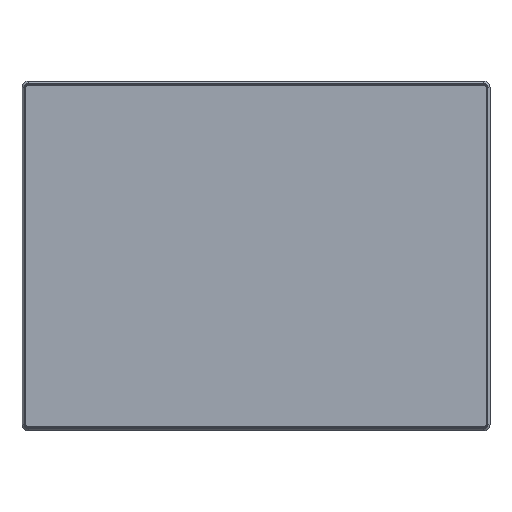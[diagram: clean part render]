
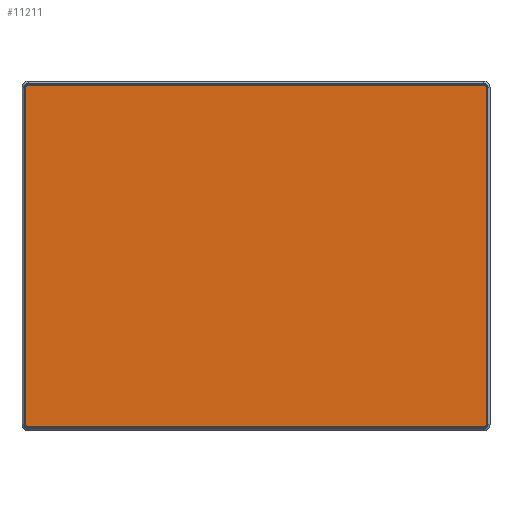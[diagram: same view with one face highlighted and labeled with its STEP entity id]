
A CAD part, top view. The second image highlights one B-rep face of the part: STEP entity #11211.
In plain terms, the highlighted planar face has unit normal (0, 0, 1).
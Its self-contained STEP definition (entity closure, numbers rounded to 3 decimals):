
#4102=DIRECTION('',(0.,1.,0.));
#4103=VECTOR('',#4102,222.5);
#4104=CARTESIAN_POINT('',(-151.7,-111.25,7.7));
#4105=LINE('',#4104,#4103);
#4106=CARTESIAN_POINT('',(-150.25,111.25,7.7));
#4107=DIRECTION('',(0.,0.,-1.));
#4108=DIRECTION('',(-1.,0.,0.));
#4109=AXIS2_PLACEMENT_3D('',#4106,#4107,#4108);
#4111=DIRECTION('',(1.,0.,0.));
#4112=VECTOR('',#4111,300.5);
#4113=CARTESIAN_POINT('',(-150.25,112.7,7.7));
#4114=LINE('',#4113,#4112);
#4115=CARTESIAN_POINT('',(150.25,111.25,7.7));
#4116=DIRECTION('',(0.,0.,-1.));
#4117=DIRECTION('',(0.,1.,0.));
#4118=AXIS2_PLACEMENT_3D('',#4115,#4116,#4117);
#4120=DIRECTION('',(0.,-1.,0.));
#4121=VECTOR('',#4120,222.5);
#4122=CARTESIAN_POINT('',(151.7,111.25,7.7));
#4123=LINE('',#4122,#4121);
#4124=CARTESIAN_POINT('',(150.25,-111.25,7.7));
#4125=DIRECTION('',(0.,0.,-1.));
#4126=DIRECTION('',(1.,0.,0.));
#4127=AXIS2_PLACEMENT_3D('',#4124,#4125,#4126);
#4129=DIRECTION('',(-1.,0.,0.));
#4130=VECTOR('',#4129,300.5);
#4131=CARTESIAN_POINT('',(150.25,-112.7,7.7));
#4132=LINE('',#4131,#4130);
#4133=CARTESIAN_POINT('',(-150.25,-111.25,7.7));
#4134=DIRECTION('',(0.,0.,-1.));
#4135=DIRECTION('',(0.,-1.,0.));
#4136=AXIS2_PLACEMENT_3D('',#4133,#4134,#4135);
#5443=CARTESIAN_POINT('',(-151.7,111.25,7.7));
#5444=CARTESIAN_POINT('',(-150.25,112.7,7.7));
#5445=VERTEX_POINT('',#5443);
#5446=VERTEX_POINT('',#5444);
#5447=CARTESIAN_POINT('',(-151.7,-111.25,7.7));
#5448=VERTEX_POINT('',#5447);
#5449=CARTESIAN_POINT('',(150.25,112.7,7.7));
#5450=VERTEX_POINT('',#5449);
#5451=CARTESIAN_POINT('',(151.7,111.25,7.7));
#5452=VERTEX_POINT('',#5451);
#5453=CARTESIAN_POINT('',(151.7,-111.25,7.7));
#5454=VERTEX_POINT('',#5453);
#5455=CARTESIAN_POINT('',(150.25,-112.7,7.7));
#5456=VERTEX_POINT('',#5455);
#5457=CARTESIAN_POINT('',(-150.25,-112.7,
7.7));
#5458=VERTEX_POINT('',#5457);
#11189=CARTESIAN_POINT('',(0.,0.,7.7));
#11190=DIRECTION('',(0.,0.,1.));
#11191=DIRECTION('',(1.,0.,0.));
#11192=AXIS2_PLACEMENT_3D('',#11189,#11190,#11191);
#11193=PLANE('',#11192);
#11195=ORIENTED_EDGE('',*,*,#11194,.T.);
#11196=ORIENTED_EDGE('',*,*,#11179,.T.);
#11198=ORIENTED_EDGE('',*,*,#11197,.T.);
#11200=ORIENTED_EDGE('',*,*,#11199,.T.);
#11202=ORIENTED_EDGE('',*,*,#11201,.T.);
#11204=ORIENTED_EDGE('',*,*,#11203,.T.);
#11206=ORIENTED_EDGE('',*,*,#11205,.T.);
#11208=ORIENTED_EDGE('',*,*,#11207,.T.);
#11209=EDGE_LOOP('',(#11195,#11196,#11198,#11200,#11202,#11204,#11206,#11208));
#11210=FACE_OUTER_BOUND('',#11209,.F.);
#11211=ADVANCED_FACE('',(#11210),#11193,.T.);
#4110=CIRCLE('',#4109,1.45);
#4119=CIRCLE('',#4118,1.45);
#4128=CIRCLE('',#4127,1.45);
#4137=CIRCLE('',#4136,1.45);
#11179=EDGE_CURVE('',#5445,#5446,#4110,.T.);
#11194=EDGE_CURVE('',#5448,#5445,#4105,.T.);
#11197=EDGE_CURVE('',#5446,#5450,#4114,.T.);
#11199=EDGE_CURVE('',#5450,#5452,#4119,.T.);
#11201=EDGE_CURVE('',#5452,#5454,#4123,.T.);
#11203=EDGE_CURVE('',#5454,#5456,#4128,.T.);
#11205=EDGE_CURVE('',#5456,#5458,#4132,.T.);
#11207=EDGE_CURVE('',#5458,#5448,#4137,.T.);
